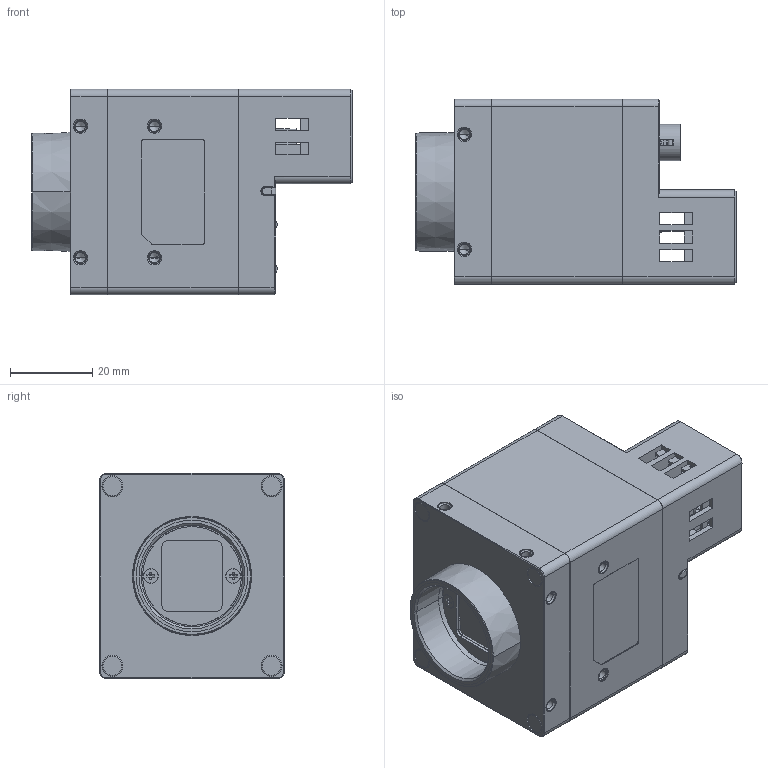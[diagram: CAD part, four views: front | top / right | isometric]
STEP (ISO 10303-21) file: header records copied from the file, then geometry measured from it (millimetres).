
FILE_DESCRIPTION((''),'2;1');
FILE_NAME('00-MV-CH250-90TM-XD-SS_ASM11_AS','2025-06-30T18:34:31',('wangyijun6'),(''),'CREO PARAMETRIC BY PTC INC, 2020044','CREO PARAMETRIC BY PTC INC, 2020044','');
FILE_SCHEMA(('CONFIG_CONTROL_DESIGN'));
Products named in the file (1): 00-MV-CH250-90TM-XD-SS_ASM11_AS
Bounding box: 77.91 x 45 x 50 mm (x, y, z)
Volume: 96689.9 mm3; surface area: 49719.5 mm2
Topology: 2 solids, 70 shells, 4468 faces, 12455 edges, 8018 vertices
Faces by surface type: plane 2319, cylinder 1156, cone 378, bspline 312, torus 219, extrusion 74, sphere 10
Entity records: 171850 total; most frequent: CARTESIAN_POINT 59925, ORIENTED_EDGE 24571, DIRECTION 21594, EDGE_CURVE 12389, VERTEX_POINT 8018, VECTOR 7280, LINE 7206, AXIS2_PLACEMENT_3D 7157
